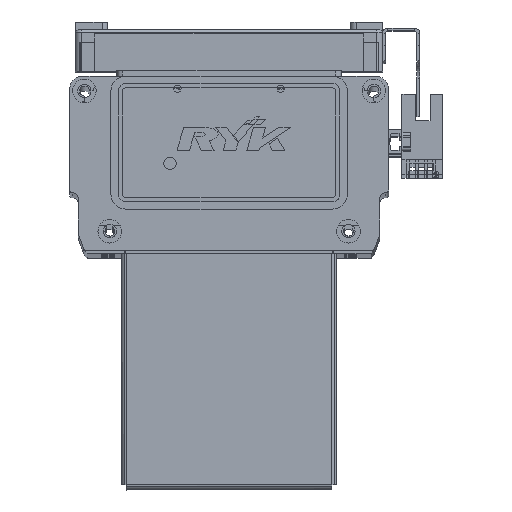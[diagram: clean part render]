
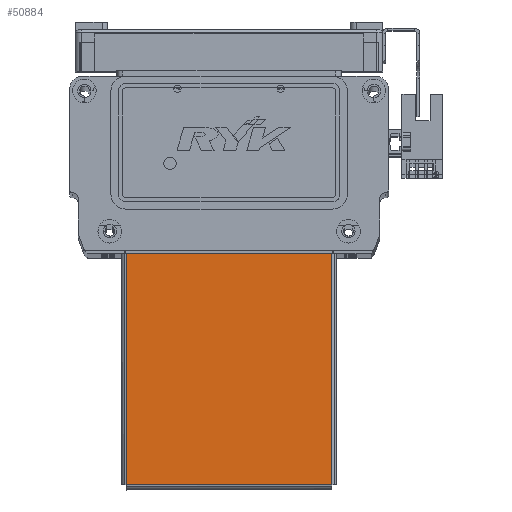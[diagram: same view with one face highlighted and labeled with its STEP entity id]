
A CAD part, top view. The second image highlights one B-rep face of the part: STEP entity #50884.
In plain terms, the highlighted planar face has unit normal (0, 0, 1) as drawn and (0, 1, 0) by its records, which use the part's own axes.
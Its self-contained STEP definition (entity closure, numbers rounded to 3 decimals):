
#2088 = VERTEX_POINT ( 'NONE', #6192 ) ;
#2091 = VERTEX_POINT ( 'NONE', #6147 ) ;
#3561 = FACE_OUTER_BOUND ( 'NONE', #62484, .T. ) ;
#6147 = CARTESIAN_POINT ( 'NONE',  ( 34.763, 0., -39.5 ) ) ;
#6192 = CARTESIAN_POINT ( 'NONE',  ( 34.763, 0., 38.763 ) ) ;
#10700 = CARTESIAN_POINT ( 'NONE',  ( -34.763, 0., 38.763 ) ) ;
#10722 = CARTESIAN_POINT ( 'NONE',  ( -34.763, 0., -39.5 ) ) ;
#12369 = CARTESIAN_POINT ( 'NONE',  ( -35.5, 0., -39.5 ) ) ;
#12372 = DIRECTION ( 'NONE',  ( -1., 0., 0. ) ) ;
#12431 = CARTESIAN_POINT ( 'NONE',  ( -34.763, 0., -39.5 ) ) ;
#12490 = DIRECTION ( 'NONE',  ( 0., 0., 1. ) ) ;
#12597 = DIRECTION ( 'NONE',  ( 0., 0., -1. ) ) ;
#12644 = CARTESIAN_POINT ( 'NONE',  ( 34.763, 0., 38.793 ) ) ;
#12667 = DIRECTION ( 'NONE',  ( 1., 0., 0. ) ) ;
#12673 = CARTESIAN_POINT ( 'NONE',  ( -34.793, 0., 38.763 ) ) ;
#27182 = ORIENTED_EDGE ( 'NONE', *, *, #27830, .T. ) ;
#27264 = ORIENTED_EDGE ( 'NONE', *, *, #27818, .T. ) ;
#27272 = ORIENTED_EDGE ( 'NONE', *, *, #27855, .T. ) ;
#27282 = ORIENTED_EDGE ( 'NONE', *, *, #27856, .T. ) ;
#27818 = EDGE_CURVE ( 'NONE', #2091, #34458, #34962, .T. ) ;
#27830 = EDGE_CURVE ( 'NONE', #34458, #34497, #35076, .T. ) ;
#27855 = EDGE_CURVE ( 'NONE', #34497, #2088, #35026, .T. ) ;
#27856 = EDGE_CURVE ( 'NONE', #2088, #2091, #35087, .T. ) ;
#34458 = VERTEX_POINT ( 'NONE', #10722 ) ;
#34497 = VERTEX_POINT ( 'NONE', #10700 ) ;
#34962 = LINE ( 'NONE', #12369, #35079 ) ;
#35026 = LINE ( 'NONE', #12673, #35035 ) ;
#35029 = VECTOR ( 'NONE', #12597, 1000. ) ;
#35035 = VECTOR ( 'NONE', #12667, 1000. ) ;
#35046 = VECTOR ( 'NONE', #12490, 1000. ) ;
#35076 = LINE ( 'NONE', #12431, #35046 ) ;
#35079 = VECTOR ( 'NONE', #12372, 1000. ) ;
#35087 = LINE ( 'NONE', #12644, #35029 ) ;
#38807 = AXIS2_PLACEMENT_3D ( 'NONE', #40724, #40734, #40749 ) ;
#40724 = CARTESIAN_POINT ( 'NONE',  ( 0., 0., 0. ) ) ;
#40727 = PLANE ( 'NONE',  #38807 ) ;
#40734 = DIRECTION ( 'NONE',  ( 0., 1., 0. ) ) ;
#40749 = DIRECTION ( 'NONE',  ( 0., 0., 1. ) ) ;
#50884 = ADVANCED_FACE ( 'NONE', ( #3561 ), #40727, .T. ) ;
#62484 = EDGE_LOOP ( 'NONE', ( #27182, #27272, #27282, #27264 ) ) ;
